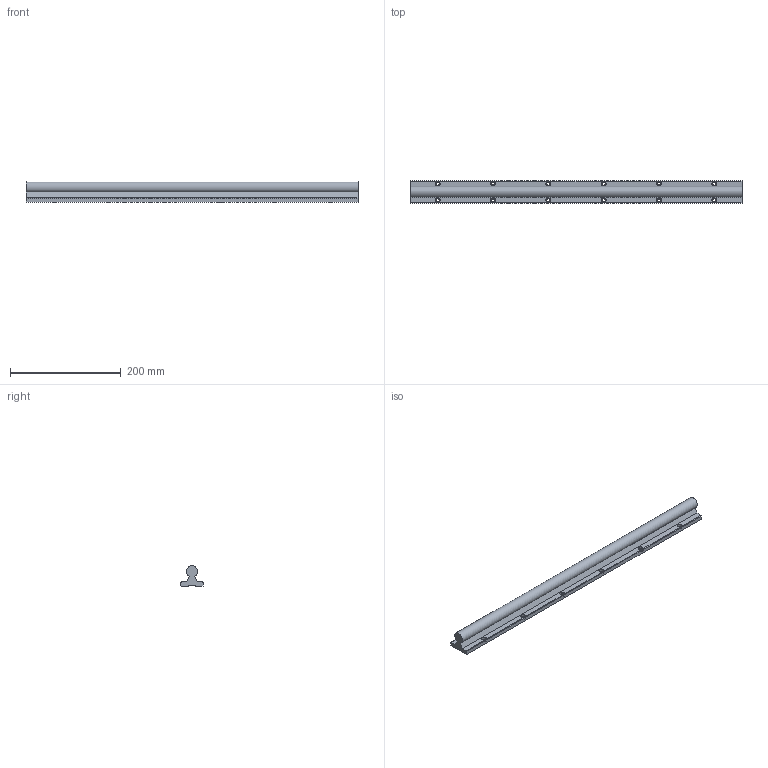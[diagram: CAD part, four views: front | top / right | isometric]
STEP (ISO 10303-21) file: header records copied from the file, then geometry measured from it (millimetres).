
FILE_DESCRIPTION((''),'2;1');
FILE_NAME('D:\製品 (図面)\カタログ用3D\GC20R.stp','2010-06-07T14:39:06',('Tsuchiya'),(''),'Autodesk Inventor 10','Autodesk Inventor 10','');
FILE_SCHEMA(('AUTOMOTIVE_DESIGN { 1 0 10303 214 1 1 1 1 }'));
Length unit declared in the file: millimetre
Products named in the file (1): GC20R
Bounding box: 600 x 40 x 36.96 mm (x, y, z)
Volume: 450327.1 mm3; surface area: 94419.3 mm2
Topology: 1 solids, 1 shells, 53 faces, 153 edges, 102 vertices
Faces by surface type: bspline 36, plane 11, cylinder 6
Entity records: 2042 total; most frequent: CARTESIAN_POINT 849, ORIENTED_EDGE 234, DIRECTION 201, EDGE_CURVE 117, EDGE_LOOP 101, VERTEX_POINT 90, AXIS2_PLACEMENT_3D 78, CIRCLE 60
